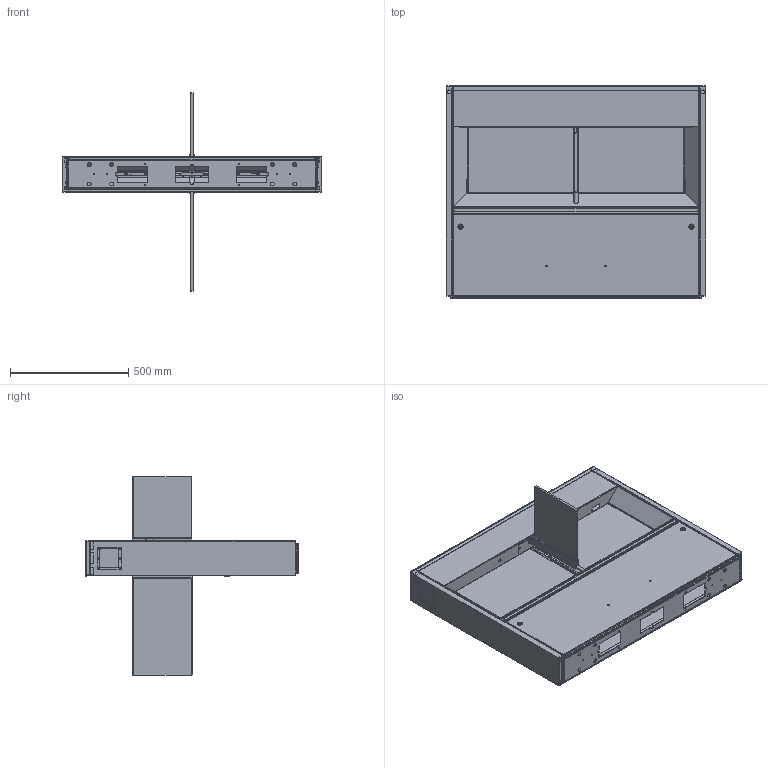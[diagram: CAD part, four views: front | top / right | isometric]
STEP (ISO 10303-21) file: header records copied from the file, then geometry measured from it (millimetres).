
FILE_DESCRIPTION (( 'STEP AP214' ), '1' );
FILE_NAME ('ライトゲート_センター【標準ワイド】.STEP', '2023-02-21T00:40:35', ( 'cadcl' ), ( 'Hewlett-Packard Company' ), 'SwSTEP 2.0', 'SolidWorks 2022', '' );
FILE_SCHEMA (( 'AUTOMOTIVE_DESIGN' ));
Length unit declared in the file: millimetre
Products named in the file (50): 201-06291-00; 201-06292-73; 201-06291-01; 201-06291-58; 201-06290-15_面発光なし; 201-06290-04; 201-06295-61; 201-06292-33; 201-06295-23; 201-06290-17; Z05-00032-00; 201-06291-28_デフォルト; 201-06290-02; 201-06292-34; 201-06290-21; 201-06290-00; 201-06292-61; 201-06291-78; 301-06197-00_施錠; 201-06291-35; Z02-00150-00_取付時:t1.5mm; 201-06292-90; 201-06295-29; 201-06292-39; 201-06292-29; 201-06290-01; 201-06295-62; 201-06295-54; 201-06291-19; 201-06292-59; 201-06291-29_デフォルト; 201-06291-02; 201-06292-31; Z07-00045-00_１．０：１．６; 201-06291-75_閉状態; 201-05997-02; ライトゲート_センター【標準ワイド】; 201-06292-72; 201-06291-31; 201-06290-05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
Assembly tree (72 placements, depth 5):
  201-06290-21
  ライトゲート_センター【標準ワイド】
    201-06292-33
      201-06292-56
        201-06291-02
          201-06291-00
          201-06291-01
      201-06292-29
        201-06292-61
        201-06290-01
      201-06292-72
        201-06292-73
        201-06290-01
      201-06295-23  x2
        201-06295-54
        201-06290-00
        Z07-00045-00_１．０：１．６
      201-06291-19  x2
        201-06295-29
        301-06197-00_施錠
        301-06197-01_施錠
      201-06291-31  x2
        201-06291-30
        Z02-00150-00_取付時:t1.5mm
      201-06292-34  x2
        201-06292-35
        Z02-00150-00_取付時:t1.5mm
      201-06292-32
        201-06292-31
      201-06291-75_閉状態  x2
        201-06292-90
          201-06292-36
          Z05-00032-00
        201-06295-58
          201-06291-51
      201-06291-28_デフォルト  x2
      201-06291-29_デフォルト  x2
      201-06291-58  x2
      Z03-00314-00  x4
    201-06291-35  x2
      201-06290-02
    201-06292-39  x2
      201-06290-17
        201-06290-15_面発光なし
    201-06292-44  x2
    201-06290-04
    201-06295-61
      201-06291-78
    201-06295-62
      201-06292-59
    201-06290-05
    201-06292-59
    201-06291-78
    201-05997-02  x2
Bounding box: 1100 x 900 x 842 mm (x, y, z)
Volume: 7558592 mm3; surface area: 7063580.7 mm2
Topology: 67 solids, 67 shells, 4397 faces, 11289 edges, 7062 vertices
Faces by surface type: plane 2776, cylinder 1309, cone 132, bspline 116, torus 48, sphere 16
Entity records: 83558 total; most frequent: CARTESIAN_POINT 16634, ORIENTED_EDGE 13496, DIRECTION 13190, EDGE_CURVE 6748, VECTOR 4892, LINE 4892, VERTEX_POINT 4243, AXIS2_PLACEMENT_3D 4149
